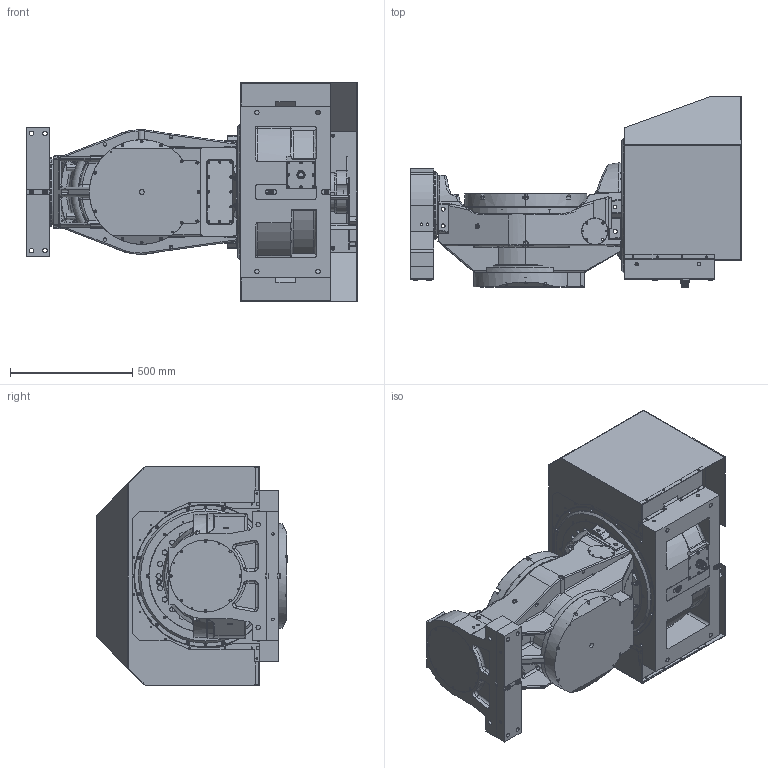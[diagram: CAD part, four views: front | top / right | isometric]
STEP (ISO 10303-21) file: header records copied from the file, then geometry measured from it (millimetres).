
FILE_DESCRIPTION (( 'STEP AP203' ), '1' );
FILE_NAME ('1519504 DDAT506-07.STEP', '2020-12-05T05:39:34', ( '' ), ( '' ), 'SwSTEP 2.0', 'SolidWorks 2019', '' );
FILE_SCHEMA (( 'CONFIG_CONTROL_DESIGN' ));
Products named in the file (1): 1519504 DDAT506-07
Bounding box: 1353.4 x 784.5 x 896 mm (x, y, z)
Surface area: 7350206.5 mm2 (no closed solid volume)
Topology: 0 solids, 88 shells, 1804 faces, 6163 edges, 4338 vertices
Faces by surface type: cylinder 1013, plane 462, cone 175, bspline 73, torus 65, sphere 16
Entity records: 75977 total; most frequent: CARTESIAN_POINT 21432, DIRECTION 12173, ORIENTED_EDGE 9869, EDGE_CURVE 6143, AXIS2_PLACEMENT_3D 4839, VERTEX_POINT 4338, CIRCLE 3107, VECTOR 2495
